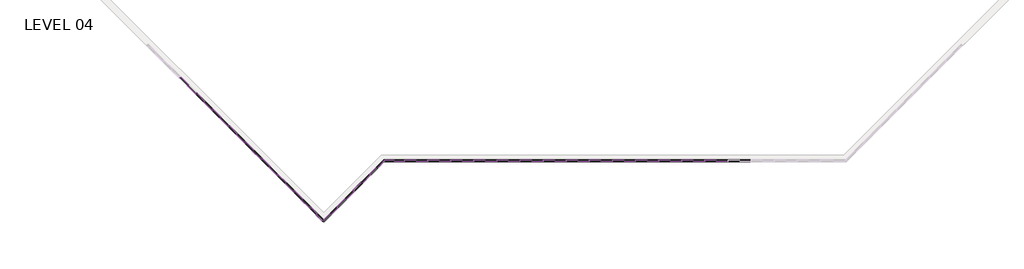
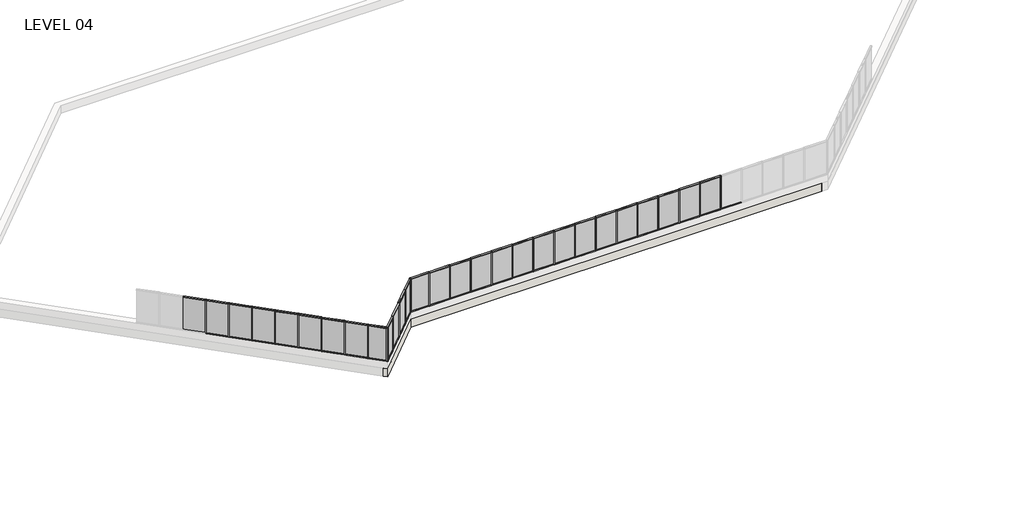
# One storey, part 1 of 17: 86 members, 28 plates, 2 walls.
"""IFC4 building model written with IfcOpenShell, lengths in millimetres."""

from ifc_helpers import new_model, si_unit, origin, place, context, project, spatial, faceted_brep, transform, mapped, element, save
from components import member_5247f267, member_e44af9ab, member_800970d4, member_c23f844a, member_45eb7f2e, member_ed9c17d6, member_53409b32, member_43bac76b, member_0b71a88d, plate_67294edd, plate_50b9cd61, plate_9c66726c, plate_dca6a18a, plate_903242d9, plate_0d1907f3, plate_15429445

model = new_model("IFC4")

# Units and contexts
model_context = context("Model", 3, world=origin())
ifc_project = project(units=[si_unit("LENGTHUNIT", "METRE", prefix="MILLI")], contexts=[model_context])

# Site, building, storey
site = spatial("IfcSite", under=ifc_project)
building = spatial("IfcBuilding", under=site)
storey = spatial("IfcBuildingStorey", under=building, Name="LEVEL 04", Elevation=12052.3)

# Members
placement = place(None, origin())
member_shape = member_5247f267(model_context)
element("IfcMember", 1, ObjectType="Rectangular Mullion : 2\" x 4.5\" rectangular", at=placement, inside=storey, context=model_context, shape_type="MappedRepresentation", body=[
    mapped(member_shape, transform((19945.35, -5092.0171279, 12052.3), x_axis=(0.0, 0.0, -1.0), y_axis=(0.0, -1.0, 0.0), z_axis=(-1.0, 0.0, 0.0))),
])
element("IfcMember", 2, ObjectType="Rectangular Mullion : 2\" x 4.5\" rectangular", at=placement, inside=storey, context=model_context, shape_type="MappedRepresentation", body=[
    mapped(member_shape, transform((21469.35, -5092.0171279, 12052.3), x_axis=(0.0, 0.0, -1.0), y_axis=(0.0, -1.0, 0.0), z_axis=(-1.0, 0.0, 0.0))),
])
element("IfcMember", 3, ObjectType="Rectangular Mullion : 2\" x 4.5\" rectangular", at=placement, inside=storey, context=model_context, shape_type="MappedRepresentation", body=[
    mapped(member_shape, transform((22993.35, -5092.0171279, 12052.3), x_axis=(0.0, 0.0, -1.0), y_axis=(0.0, -1.0, 0.0), z_axis=(-1.0, 0.0, 0.0))),
])
element("IfcMember", 4, ObjectType="Rectangular Mullion : 2\" x 4.5\" rectangular", at=placement, inside=storey, context=model_context, shape_type="MappedRepresentation", body=[
    mapped(member_shape, transform((29089.35, -5092.0171279, 12052.3), x_axis=(0.0, 0.0, -1.0), y_axis=(0.0, -1.0, 0.0), z_axis=(-1.0, 0.0, 0.0))),
])
element("IfcMember", 5, ObjectType="Rectangular Mullion : 2\" x 4.5\" rectangular", at=placement, inside=storey, context=model_context, shape_type="MappedRepresentation", body=[
    mapped(member_shape, transform((30613.35, -5092.0171279, 12052.3), x_axis=(0.0, 0.0, -1.0), y_axis=(0.0, -1.0, 0.0), z_axis=(-1.0, 0.0, 0.0))),
])
element("IfcMember", 6, ObjectType="Rectangular Mullion : 2\" x 4.5\" rectangular", at=placement, inside=storey, context=model_context, shape_type="MappedRepresentation", body=[
    mapped(member_shape, transform((32137.35, -5092.0171279, 12052.3), x_axis=(0.0, 0.0, -1.0), y_axis=(0.0, -1.0, 0.0), z_axis=(-1.0, 0.0, 0.0))),
])
element("IfcMember", 7, ObjectType="Rectangular Mullion : 2\" x 4.5\" rectangular", at=placement, inside=storey, context=model_context, shape_type="MappedRepresentation", body=[
    mapped(member_shape, transform((35185.35, -5092.0171279, 12052.3), x_axis=(0.0, 0.0, -1.0), y_axis=(0.0, -1.0, 0.0), z_axis=(-1.0, 0.0, 0.0))),
])
element("IfcMember", 8, ObjectType="Rectangular Mullion : 2\" x 4.5\" rectangular", at=placement, inside=storey, context=model_context, shape_type="MappedRepresentation", body=[
    mapped(member_shape, transform((36709.35, -5092.0171279, 12052.3), x_axis=(0.0, 0.0, -1.0), y_axis=(0.0, -1.0, 0.0), z_axis=(-1.0, 0.0, 0.0))),
])
element("IfcMember", 9, ObjectType="Rectangular Mullion : 2\" x 4.5\" rectangular", at=placement, inside=storey, context=model_context, shape_type="MappedRepresentation", body=[
    mapped(member_shape, transform((39757.35, -5092.0171279, 12052.3), x_axis=(0.0, 0.0, -1.0), y_axis=(0.0, -1.0, 0.0), z_axis=(-1.0, 0.0, 0.0))),
])
element("IfcMember", 10, ObjectType="Rectangular Mullion : 2\" x 4.5\" rectangular", at=placement, inside=storey, context=model_context, shape_type="MappedRepresentation", body=[
    mapped(member_shape, transform((24517.35, -5092.0171279, 12052.3), x_axis=(0.0, 0.0, -1.0), y_axis=(0.0, -1.0, 0.0), z_axis=(-1.0, 0.0, 0.0))),
])
element("IfcMember", 11, ObjectType="Rectangular Mullion : 2\" x 4.5\" rectangular", at=placement, inside=storey, context=model_context, shape_type="MappedRepresentation", body=[
    mapped(member_shape, transform((27565.35, -5092.0171279, 12052.3), x_axis=(0.0, 0.0, -1.0), y_axis=(0.0, -1.0, 0.0), z_axis=(-1.0, 0.0, 0.0))),
])
element("IfcMember", 12, ObjectType="Rectangular Mullion : 2\" x 4.5\" rectangular", at=placement, inside=storey, context=model_context, shape_type="MappedRepresentation", body=[
    mapped(member_shape, transform((26041.35, -5092.0171279, 12052.3), x_axis=(0.0, 0.0, -1.0), y_axis=(0.0, -1.0, 0.0), z_axis=(-1.0, 0.0, 0.0))),
])
element("IfcMember", 13, ObjectType="Rectangular Mullion : 2\" x 4.5\" rectangular", at=placement, inside=storey, context=model_context, shape_type="MappedRepresentation", body=[
    mapped(member_shape, transform((38233.35, -5092.0171279, 12052.3), x_axis=(0.0, 0.0, -1.0), y_axis=(0.0, -1.0, 0.0), z_axis=(-1.0, 0.0, 0.0))),
])
element("IfcMember", 14, ObjectType="Rectangular Mullion : 2\" x 4.5\" rectangular", at=placement, inside=storey, context=model_context, shape_type="MappedRepresentation", body=[
    mapped(member_shape, transform((33661.35, -5092.0171279, 12052.3), x_axis=(0.0, 0.0, -1.0), y_axis=(0.0, -1.0, 0.0), z_axis=(-1.0, 0.0, 0.0))),
])
element("IfcMember", 15, ObjectType="Rectangular Mullion : 2\" x 4.5\" rectangular", at=placement, inside=storey, context=model_context, shape_type="MappedRepresentation", body=[
    mapped(member_shape, transform((41281.35, -5092.0171279, 12052.3), x_axis=(0.0, 0.0, -1.0), y_axis=(0.0, -1.0, 0.0), z_axis=(-1.0, 0.0, 0.0))),
])
element("IfcMember", 16, ObjectType="Rectangular Mullion : 2\" x 4.5\" rectangular", at=placement, inside=storey, context=model_context, shape_type="MappedRepresentation", body=[
    mapped(member_shape, transform((9409.6310836, -3891.4043471, 12052.3), x_axis=(0.0, 0.0, -1.0), y_axis=(-0.707106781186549, -0.7071067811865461, 0.0), z_axis=(-0.7071067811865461, 0.707106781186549, 0.0))),
])
element("IfcMember", 17, ObjectType="Rectangular Mullion : 2\" x 4.5\" rectangular", at=placement, inside=storey, context=model_context, shape_type="MappedRepresentation", body=[
    mapped(member_shape, transform((10487.2618181, -4969.0350816, 12052.3), x_axis=(0.0, 0.0, -1.0), y_axis=(-0.707106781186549, -0.7071067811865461, 0.0), z_axis=(-0.7071067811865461, 0.707106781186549, 0.0))),
])
element("IfcMember", 18, ObjectType="Rectangular Mullion : 2\" x 4.5\" rectangular", at=placement, inside=storey, context=model_context, shape_type="MappedRepresentation", body=[
    mapped(member_shape, transform((11564.8925527, -6046.6658162, 12052.3), x_axis=(0.0, 0.0, -1.0), y_axis=(-0.707106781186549, -0.7071067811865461, 0.0), z_axis=(-0.7071067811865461, 0.707106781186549, 0.0))),
])
element("IfcMember", 19, ObjectType="Rectangular Mullion : 2\" x 4.5\" rectangular", at=placement, inside=storey, context=model_context, shape_type="MappedRepresentation", body=[
    mapped(member_shape, transform((12642.5232872, -7124.2965507, 12052.3), x_axis=(0.0, 0.0, -1.0), y_axis=(-0.7071067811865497, -0.7071067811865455, 0.0), z_axis=(-0.7071067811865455, 0.7071067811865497, 0.0))),
])
element("IfcMember", 20, ObjectType="Rectangular Mullion : 2\" x 4.5\" rectangular", at=placement, inside=storey, context=model_context, shape_type="MappedRepresentation", body=[
    mapped(member_shape, transform((16592.327111, -7061.3461525, 12052.3), x_axis=(0.0, 0.0, -1.0), y_axis=(0.7071067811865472, -0.7071067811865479, 0.0), z_axis=(-0.7071067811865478, -0.7071067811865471, 0.0))),
])
element("IfcMember", 21, ObjectType="Rectangular Mullion : 2\" x 4.5\" rectangular", at=placement, inside=storey, context=model_context, shape_type="MappedRepresentation", body=[
    mapped(member_shape, transform((15514.6963765, -8138.976887, 12052.3), x_axis=(0.0, 0.0, -1.0), y_axis=(0.7071067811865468, -0.7071067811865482, 0.0), z_axis=(-0.7071067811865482, -0.7071067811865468, 0.0))),
])
element("IfcMember", 22, ObjectType="Rectangular Mullion : 2\" x 4.5\" rectangular", at=placement, inside=storey, context=model_context, shape_type="MappedRepresentation", body=[
    mapped(member_shape, transform((21418.55, -5092.0171279, 14643.1), x_axis=(0.0, 0.0, 1.0), y_axis=(0.0, -1.0, 0.0), z_axis=(1.0, 0.0, 0.0))),
])
element("IfcMember", 23, ObjectType="Rectangular Mullion : 2\" x 4.5\" rectangular", at=placement, inside=storey, context=model_context, shape_type="MappedRepresentation", body=[
    mapped(member_shape, transform((22942.55, -5092.0171279, 14643.1), x_axis=(0.0, 0.0, 1.0), y_axis=(0.0, -1.0, 0.0), z_axis=(1.0, 0.0, 0.0))),
])
element("IfcMember", 24, ObjectType="Rectangular Mullion : 2\" x 4.5\" rectangular", at=placement, inside=storey, context=model_context, shape_type="MappedRepresentation", body=[
    mapped(member_shape, transform((29038.55, -5092.0171279, 14643.1), x_axis=(0.0, 0.0, 1.0), y_axis=(0.0, -1.0, 0.0), z_axis=(1.0, 0.0, 0.0))),
])
element("IfcMember", 25, ObjectType="Rectangular Mullion : 2\" x 4.5\" rectangular", at=placement, inside=storey, context=model_context, shape_type="MappedRepresentation", body=[
    mapped(member_shape, transform((30562.55, -5092.0171279, 14643.1), x_axis=(0.0, 0.0, 1.0), y_axis=(0.0, -1.0, 0.0), z_axis=(1.0, 0.0, 0.0))),
])
element("IfcMember", 26, ObjectType="Rectangular Mullion : 2\" x 4.5\" rectangular", at=placement, inside=storey, context=model_context, shape_type="MappedRepresentation", body=[
    mapped(member_shape, transform((32086.55, -5092.0171279, 14643.1), x_axis=(0.0, 0.0, 1.0), y_axis=(0.0, -1.0, 0.0), z_axis=(1.0, 0.0, 0.0))),
])
element("IfcMember", 27, ObjectType="Rectangular Mullion : 2\" x 4.5\" rectangular", at=placement, inside=storey, context=model_context, shape_type="MappedRepresentation", body=[
    mapped(member_shape, transform((35134.55, -5092.0171279, 14643.1), x_axis=(0.0, 0.0, 1.0), y_axis=(0.0, -1.0, 0.0), z_axis=(1.0, 0.0, 0.0))),
])
element("IfcMember", 28, ObjectType="Rectangular Mullion : 2\" x 4.5\" rectangular", at=placement, inside=storey, context=model_context, shape_type="MappedRepresentation", body=[
    mapped(member_shape, transform((36658.55, -5092.0171279, 14643.1), x_axis=(0.0, 0.0, 1.0), y_axis=(0.0, -1.0, 0.0), z_axis=(1.0, 0.0, 0.0))),
])
element("IfcMember", 29, ObjectType="Rectangular Mullion : 2\" x 4.5\" rectangular", at=placement, inside=storey, context=model_context, shape_type="MappedRepresentation", body=[
    mapped(member_shape, transform((39706.55, -5092.0171279, 14643.1), x_axis=(0.0, 0.0, 1.0), y_axis=(0.0, -1.0, 0.0), z_axis=(1.0, 0.0, 0.0))),
])
element("IfcMember", 30, ObjectType="Rectangular Mullion : 2\" x 4.5\" rectangular", at=placement, inside=storey, context=model_context, shape_type="MappedRepresentation", body=[
    mapped(member_shape, transform((24466.55, -5092.0171279, 14643.1), x_axis=(0.0, 0.0, 1.0), y_axis=(0.0, -1.0, 0.0), z_axis=(1.0, 0.0, 0.0))),
])
element("IfcMember", 31, ObjectType="Rectangular Mullion : 2\" x 4.5\" rectangular", at=placement, inside=storey, context=model_context, shape_type="MappedRepresentation", body=[
    mapped(member_shape, transform((27514.55, -5092.0171279, 14643.1), x_axis=(0.0, 0.0, 1.0), y_axis=(0.0, -1.0, 0.0), z_axis=(1.0, 0.0, 0.0))),
])
element("IfcMember", 32, ObjectType="Rectangular Mullion : 2\" x 4.5\" rectangular", at=placement, inside=storey, context=model_context, shape_type="MappedRepresentation", body=[
    mapped(member_shape, transform((25990.55, -5092.0171279, 14643.1), x_axis=(0.0, 0.0, 1.0), y_axis=(0.0, -1.0, 0.0), z_axis=(1.0, 0.0, 0.0))),
])
element("IfcMember", 33, ObjectType="Rectangular Mullion : 2\" x 4.5\" rectangular", at=placement, inside=storey, context=model_context, shape_type="MappedRepresentation", body=[
    mapped(member_shape, transform((38182.55, -5092.0171279, 14643.1), x_axis=(0.0, 0.0, 1.0), y_axis=(0.0, -1.0, 0.0), z_axis=(1.0, 0.0, 0.0))),
])
element("IfcMember", 34, ObjectType="Rectangular Mullion : 2\" x 4.5\" rectangular", at=placement, inside=storey, context=model_context, shape_type="MappedRepresentation", body=[
    mapped(member_shape, transform((33610.55, -5092.0171279, 14643.1), x_axis=(0.0, 0.0, 1.0), y_axis=(0.0, -1.0, 0.0), z_axis=(1.0, 0.0, 0.0))),
])
element("IfcMember", 35, ObjectType="Rectangular Mullion : 2\" x 4.5\" rectangular", at=placement, inside=storey, context=model_context, shape_type="MappedRepresentation", body=[
    mapped(member_shape, transform((41230.55, -5092.0171279, 14643.1), x_axis=(0.0, 0.0, 1.0), y_axis=(0.0, -1.0, 0.0), z_axis=(1.0, 0.0, 0.0))),
])
element("IfcMember", 36, ObjectType="Rectangular Mullion : 2\" x 4.5\" rectangular", at=placement, inside=storey, context=model_context, shape_type="MappedRepresentation", body=[
    mapped(member_shape, transform((10451.3407936, -4933.1140572, 14643.1), x_axis=(0.0, 0.0, 1.0), y_axis=(-0.707106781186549, -0.7071067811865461, 0.0), z_axis=(0.7071067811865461, -0.707106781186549, 0.0))),
])
element("IfcMember", 37, ObjectType="Rectangular Mullion : 2\" x 4.5\" rectangular", at=placement, inside=storey, context=model_context, shape_type="MappedRepresentation", body=[
    mapped(member_shape, transform((11528.9715282, -6010.7447917, 14643.1), x_axis=(0.0, 0.0, 1.0), y_axis=(-0.707106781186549, -0.7071067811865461, 0.0), z_axis=(0.7071067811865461, -0.707106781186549, 0.0))),
])
element("IfcMember", 38, ObjectType="Rectangular Mullion : 2\" x 4.5\" rectangular", at=placement, inside=storey, context=model_context, shape_type="MappedRepresentation", body=[
    mapped(member_shape, transform((12606.6022627, -7088.3755262, 14643.1), x_axis=(0.0, 0.0, 1.0), y_axis=(-0.707106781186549, -0.7071067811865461, 0.0), z_axis=(0.7071067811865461, -0.707106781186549, 0.0))),
])
element("IfcMember", 39, ObjectType="Rectangular Mullion : 2\" x 4.5\" rectangular", at=placement, inside=storey, context=model_context, shape_type="MappedRepresentation", body=[
    mapped(member_shape, transform((13684.2329972, -8166.0062607, 14643.1), x_axis=(0.0, 0.0, 1.0), y_axis=(-0.7071067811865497, -0.7071067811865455, 0.0), z_axis=(0.7071067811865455, -0.7071067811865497, 0.0))),
])
element("IfcMember", 40, ObjectType="Rectangular Mullion : 2\" x 4.5\" rectangular", at=placement, inside=storey, context=model_context, shape_type="MappedRepresentation", body=[
    mapped(member_shape, transform((16556.4060865, -7097.267177, 14643.1), x_axis=(0.0, 0.0, 1.0), y_axis=(0.7071067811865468, -0.7071067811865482, 0.0), z_axis=(0.7071067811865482, 0.7071067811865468, 0.0))),
])
element("IfcMember", 41, ObjectType="Rectangular Mullion : 2\" x 4.5\" rectangular", at=placement, inside=storey, context=model_context, shape_type="MappedRepresentation", body=[
    mapped(member_shape, transform((17634.036821, -6019.6364425, 14643.1), x_axis=(0.0, 0.0, 1.0), y_axis=(0.7071067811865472, -0.7071067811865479, 0.0), z_axis=(0.7071067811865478, 0.7071067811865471, 0.0))),
])
member_2_shape = member_e44af9ab(model_context)
element("IfcMember", 42, ObjectType="Rectangular Mullion : 2\" x 4.5\" rectangular", at=placement, inside=storey, context=model_context, shape_type="MappedRepresentation", body=[
    mapped(member_2_shape, transform((19919.95, -5092.0171279, 12052.3), x_axis=(1.0, 0.0, 0.0), y_axis=(0.0, -1.0, 0.0), z_axis=(0.0, 0.0, -1.0))),
])
element("IfcMember", 43, ObjectType="Rectangular Mullion : 2\" x 4.5\" rectangular", at=placement, inside=storey, context=model_context, shape_type="MappedRepresentation", body=[
    mapped(member_2_shape, transform((21443.95, -5092.0171279, 12052.3), x_axis=(1.0, 0.0, 0.0), y_axis=(0.0, -1.0, 0.0), z_axis=(0.0, 0.0, -1.0))),
])
element("IfcMember", 44, ObjectType="Rectangular Mullion : 2\" x 4.5\" rectangular", at=placement, inside=storey, context=model_context, shape_type="MappedRepresentation", body=[
    mapped(member_2_shape, transform((22967.95, -5092.0171279, 12052.3), x_axis=(1.0, 0.0, 0.0), y_axis=(0.0, -1.0, 0.0), z_axis=(0.0, 0.0, -1.0))),
])
element("IfcMember", 45, ObjectType="Rectangular Mullion : 2\" x 4.5\" rectangular", at=placement, inside=storey, context=model_context, shape_type="MappedRepresentation", body=[
    mapped(member_2_shape, transform((29063.95, -5092.0171279, 12052.3), x_axis=(1.0, 0.0, 0.0), y_axis=(0.0, -1.0, 0.0), z_axis=(0.0, 0.0, -1.0))),
])
element("IfcMember", 46, ObjectType="Rectangular Mullion : 2\" x 4.5\" rectangular", at=placement, inside=storey, context=model_context, shape_type="MappedRepresentation", body=[
    mapped(member_2_shape, transform((30587.95, -5092.0171279, 12052.3), x_axis=(1.0, 0.0, 0.0), y_axis=(0.0, -1.0, 0.0), z_axis=(0.0, 0.0, -1.0))),
])
element("IfcMember", 47, ObjectType="Rectangular Mullion : 2\" x 4.5\" rectangular", at=placement, inside=storey, context=model_context, shape_type="MappedRepresentation", body=[
    mapped(member_2_shape, transform((32111.95, -5092.0171279, 12052.3), x_axis=(1.0, 0.0, 0.0), y_axis=(0.0, -1.0, 0.0), z_axis=(0.0, 0.0, -1.0))),
])
element("IfcMember", 48, ObjectType="Rectangular Mullion : 2\" x 4.5\" rectangular", at=placement, inside=storey, context=model_context, shape_type="MappedRepresentation", body=[
    mapped(member_2_shape, transform((35159.95, -5092.0171279, 12052.3), x_axis=(1.0, 0.0, 0.0), y_axis=(0.0, -1.0, 0.0), z_axis=(0.0, 0.0, -1.0))),
])
element("IfcMember", 49, ObjectType="Rectangular Mullion : 2\" x 4.5\" rectangular", at=placement, inside=storey, context=model_context, shape_type="MappedRepresentation", body=[
    mapped(member_2_shape, transform((36683.95, -5092.0171279, 12052.3), x_axis=(1.0, 0.0, 0.0), y_axis=(0.0, -1.0, 0.0), z_axis=(0.0, 0.0, -1.0))),
])
element("IfcMember", 50, ObjectType="Rectangular Mullion : 2\" x 4.5\" rectangular", at=placement, inside=storey, context=model_context, shape_type="MappedRepresentation", body=[
    mapped(member_2_shape, transform((39731.95, -5092.0171279, 12052.3), x_axis=(1.0, 0.0, 0.0), y_axis=(0.0, -1.0, 0.0), z_axis=(0.0, 0.0, -1.0))),
])
element("IfcMember", 51, ObjectType="Rectangular Mullion : 2\" x 4.5\" rectangular", at=placement, inside=storey, context=model_context, shape_type="MappedRepresentation", body=[
    mapped(member_2_shape, transform((24491.95, -5092.0171279, 12052.3), x_axis=(1.0, 0.0, 0.0), y_axis=(0.0, -1.0, 0.0), z_axis=(0.0, 0.0, -1.0))),
])
element("IfcMember", 52, ObjectType="Rectangular Mullion : 2\" x 4.5\" rectangular", at=placement, inside=storey, context=model_context, shape_type="MappedRepresentation", body=[
    mapped(member_2_shape, transform((27539.95, -5092.0171279, 12052.3), x_axis=(1.0, 0.0, 0.0), y_axis=(0.0, -1.0, 0.0), z_axis=(0.0, 0.0, -1.0))),
])
element("IfcMember", 53, ObjectType="Rectangular Mullion : 2\" x 4.5\" rectangular", at=placement, inside=storey, context=model_context, shape_type="MappedRepresentation", body=[
    mapped(member_2_shape, transform((26015.95, -5092.0171279, 12052.3), x_axis=(1.0, 0.0, 0.0), y_axis=(0.0, -1.0, 0.0), z_axis=(0.0, 0.0, -1.0))),
])
element("IfcMember", 54, ObjectType="Rectangular Mullion : 2\" x 4.5\" rectangular", at=placement, inside=storey, context=model_context, shape_type="MappedRepresentation", body=[
    mapped(member_2_shape, transform((38207.95, -5092.0171279, 12052.3), x_axis=(1.0, 0.0, 0.0), y_axis=(0.0, -1.0, 0.0), z_axis=(0.0, 0.0, -1.0))),
])
element("IfcMember", 55, ObjectType="Rectangular Mullion : 2\" x 4.5\" rectangular", at=placement, inside=storey, context=model_context, shape_type="MappedRepresentation", body=[
    mapped(member_2_shape, transform((33635.95, -5092.0171279, 12052.3), x_axis=(1.0, 0.0, 0.0), y_axis=(0.0, -1.0, 0.0), z_axis=(0.0, 0.0, -1.0))),
])
element("IfcMember", 56, ObjectType="Rectangular Mullion : 2\" x 4.5\" rectangular", at=placement, inside=storey, context=model_context, shape_type="MappedRepresentation", body=[
    mapped(member_2_shape, transform((41255.95, -5092.0171279, 12052.3), x_axis=(1.0, 0.0, 0.0), y_axis=(0.0, -1.0, 0.0), z_axis=(0.0, 0.0, -1.0))),
])
element("IfcMember", 57, ObjectType="Rectangular Mullion : 2\" x 4.5\" rectangular", at=placement, inside=storey, context=model_context, shape_type="MappedRepresentation", body=[
    mapped(member_2_shape, transform((6176.740342, -658.5136055, 12052.3), x_axis=(0.7071067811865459, -0.7071067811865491, 0.0), y_axis=(-0.7071067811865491, -0.7071067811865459, 0.0), z_axis=(0.0, 0.0, -1.0))),
])
element("IfcMember", 58, ObjectType="Rectangular Mullion : 2\" x 4.5\" rectangular", at=placement, inside=storey, context=model_context, shape_type="MappedRepresentation", body=[
    mapped(member_2_shape, transform((7248.3837518, -1730.1570153, 12052.3), x_axis=(0.7071067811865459, -0.7071067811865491, 0.0), y_axis=(-0.7071067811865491, -0.7071067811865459, 0.0), z_axis=(0.0, 0.0, -1.0))),
])
element("IfcMember", 59, ObjectType="Rectangular Mullion : 2\" x 4.5\" rectangular", at=placement, inside=storey, context=model_context, shape_type="MappedRepresentation", body=[
    mapped(member_2_shape, transform((8320.0271616, -2801.8004251, 12052.3), x_axis=(0.7071067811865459, -0.7071067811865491, 0.0), y_axis=(-0.7071067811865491, -0.7071067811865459, 0.0), z_axis=(0.0, 0.0, -1.0))),
])
element("IfcMember", 60, ObjectType="Rectangular Mullion : 2\" x 4.5\" rectangular", at=placement, inside=storey, context=model_context, shape_type="MappedRepresentation", body=[
    mapped(member_2_shape, transform((9391.6705714, -3873.4438349, 12052.3), x_axis=(0.7071067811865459, -0.7071067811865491, 0.0), y_axis=(-0.7071067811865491, -0.7071067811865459, 0.0), z_axis=(0.0, 0.0, -1.0))),
])
element("IfcMember", 61, ObjectType="Rectangular Mullion : 2\" x 4.5\" rectangular", at=placement, inside=storey, context=model_context, shape_type="MappedRepresentation", body=[
    mapped(member_2_shape, transform((10469.3013059, -4951.0745694, 12052.3), x_axis=(0.7071067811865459, -0.7071067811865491, 0.0), y_axis=(-0.7071067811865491, -0.7071067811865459, 0.0), z_axis=(0.0, 0.0, -1.0))),
])
element("IfcMember", 62, ObjectType="Rectangular Mullion : 2\" x 4.5\" rectangular", at=placement, inside=storey, context=model_context, shape_type="MappedRepresentation", body=[
    mapped(member_2_shape, transform((11546.9320404, -6028.7053039, 12052.3), x_axis=(0.7071067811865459, -0.7071067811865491, 0.0), y_axis=(-0.7071067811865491, -0.7071067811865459, 0.0), z_axis=(0.0, 0.0, -1.0))),
])
element("IfcMember", 63, ObjectType="Rectangular Mullion : 2\" x 4.5\" rectangular", at=placement, inside=storey, context=model_context, shape_type="MappedRepresentation", body=[
    mapped(member_2_shape, transform((12624.5627749, -7106.3360385, 12052.3), x_axis=(0.7071067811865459, -0.7071067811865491, 0.0), y_axis=(-0.7071067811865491, -0.7071067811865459, 0.0), z_axis=(0.0, 0.0, -1.0))),
])
element("IfcMember", 64, ObjectType="Rectangular Mullion : 2\" x 4.5\" rectangular", at=placement, inside=storey, context=model_context, shape_type="MappedRepresentation", body=[
    mapped(member_2_shape, transform((13702.1935095, -8183.966773, 12052.3), x_axis=(0.7071067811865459, -0.7071067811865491, 0.0), y_axis=(-0.7071067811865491, -0.7071067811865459, 0.0), z_axis=(0.0, 0.0, -1.0))),
])
element("IfcMember", 65, ObjectType="Rectangular Mullion : 2\" x 4.5\" rectangular", at=placement, inside=storey, context=model_context, shape_type="MappedRepresentation", body=[
    mapped(member_2_shape, transform((16574.3665988, -7079.3066648, 12052.3), x_axis=(0.707106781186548, 0.707106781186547, 0.0), y_axis=(0.707106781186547, -0.707106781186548, 0.0), z_axis=(0.0, 0.0, -1.0))),
])
element("IfcMember", 66, ObjectType="Rectangular Mullion : 2\" x 4.5\" rectangular", at=placement, inside=storey, context=model_context, shape_type="MappedRepresentation", body=[
    mapped(member_2_shape, transform((17651.9973333, -6001.6759302, 12052.3), x_axis=(0.707106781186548, 0.707106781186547, 0.0), y_axis=(0.707106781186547, -0.707106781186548, 0.0), z_axis=(0.0, 0.0, -1.0))),
])
element("IfcMember", 67, ObjectType="Rectangular Mullion : 2\" x 4.5\" rectangular", at=placement, inside=storey, context=model_context, shape_type="MappedRepresentation", body=[
    mapped(member_2_shape, transform((15496.7358642, -8156.9373993, 12052.3), x_axis=(0.707106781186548, 0.707106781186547, 0.0), y_axis=(0.707106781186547, -0.707106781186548, 0.0), z_axis=(0.0, 0.0, -1.0))),
])
member_3_shape = member_800970d4(model_context)
element("IfcMember", 68, ObjectType="Rectangular Mullion : 2\" x 4.5\" rectangular", at=placement, inside=storey, context=model_context, shape_type="MappedRepresentation", body=[
    mapped(member_3_shape, transform((14585.95, -9067.7232635, 12052.3), x_axis=(0.7071067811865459, -0.7071067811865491, 0.0), y_axis=(-0.7071067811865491, -0.7071067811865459, 0.0), z_axis=(0.0, 0.0, -1.0))),
])
element("IfcMember", 69, ObjectType="Rectangular Mullion : 2\" x 4.5\" rectangular", at=placement, inside=storey, context=model_context, shape_type="MappedRepresentation", body=[
    mapped(member_3_shape, transform((18561.6561356, -5092.0171279, 12052.3), x_axis=(0.707106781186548, 0.707106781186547, 0.0), y_axis=(0.707106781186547, -0.707106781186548, 0.0), z_axis=(0.0, 0.0, -1.0))),
])
element("IfcMember", 70, ObjectType="Rectangular Mullion : 2\" x 4.5\" rectangular", at=placement, inside=storey, context=model_context, shape_type="MappedRepresentation", body=[
    mapped(member_3_shape, transform((18561.6561356, -5092.0171279, 14643.1), x_axis=(-1.0, 0.0, 0.0), y_axis=(0.0, -1.0, 0.0), z_axis=(0.0, 0.0, 1.0))),
])
element("IfcMember", 71, ObjectType="Rectangular Mullion : 2\" x 4.5\" rectangular", at=placement, inside=storey, context=model_context, shape_type="MappedRepresentation", body=[
    mapped(member_3_shape, transform((14585.95, -9067.7232635, 14643.1), x_axis=(-0.707106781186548, -0.707106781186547, 0.0), y_axis=(0.707106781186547, -0.707106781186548, 0.0), z_axis=(0.0, 0.0, 1.0))),
])
member_4_shape = member_c23f844a(model_context)
element("IfcMember", 72, ObjectType="Rectangular Mullion : 2\" x 4.5\" rectangular", at=placement, inside=storey, context=model_context, shape_type="MappedRepresentation", body=[
    mapped(member_4_shape, transform((7230.4232395, -1712.196503, 14643.1), x_axis=(0.0, 0.0, 1.0), y_axis=(-0.707106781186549, -0.7071067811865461, 0.0), z_axis=(0.7071067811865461, -0.707106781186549, 0.0))),
])
element("IfcMember", 73, ObjectType="Rectangular Mullion : 2\" x 4.5\" rectangular", at=placement, inside=storey, context=model_context, shape_type="MappedRepresentation", body=[
    mapped(member_4_shape, transform((8302.0666493, -2783.8399128, 14643.1), x_axis=(0.0, 0.0, 1.0), y_axis=(-0.7071067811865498, -0.7071067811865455, 0.0), z_axis=(0.7071067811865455, -0.7071067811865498, 0.0))),
])
element("IfcMember", 74, ObjectType="Rectangular Mullion : 2\" x 4.5\" rectangular", at=placement, inside=storey, context=model_context, shape_type="MappedRepresentation", body=[
    mapped(member_4_shape, transform((9373.7100591, -3855.4833226, 14643.1), x_axis=(0.0, 0.0, 1.0), y_axis=(-0.707106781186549, -0.7071067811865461, 0.0), z_axis=(0.707106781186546, -0.7071067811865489, 0.0))),
])
element("IfcMember", 75, ObjectType="Rectangular Mullion : 2\" x 4.5\" rectangular", at=placement, inside=storey, context=model_context, shape_type="MappedRepresentation", body=[
    mapped(member_4_shape, transform((6194.7008542, -676.4741177, 12052.3), x_axis=(0.0, 0.0, -1.0), y_axis=(-0.7071067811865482, -0.7071067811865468, 0.0), z_axis=(-0.7071067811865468, 0.7071067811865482, 0.0))),
])
element("IfcMember", 76, ObjectType="Rectangular Mullion : 2\" x 4.5\" rectangular", at=placement, inside=storey, context=model_context, shape_type="MappedRepresentation", body=[
    mapped(member_4_shape, transform((7266.344264, -1748.1175275, 12052.3), x_axis=(0.0, 0.0, -1.0), y_axis=(-0.7071067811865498, -0.7071067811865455, 0.0), z_axis=(-0.7071067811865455, 0.7071067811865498, 0.0))),
])
element("IfcMember", 77, ObjectType="Rectangular Mullion : 2\" x 4.5\" rectangular", at=placement, inside=storey, context=model_context, shape_type="MappedRepresentation", body=[
    mapped(member_4_shape, transform((8337.9876738, -2819.7609373, 12052.3), x_axis=(0.0, 0.0, -1.0), y_axis=(-0.707106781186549, -0.7071067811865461, 0.0), z_axis=(-0.707106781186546, 0.7071067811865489, 0.0))),
])
member_5_shape = member_45eb7f2e(model_context)
element("IfcMember", 78, ObjectType="Rectangular Mullion : 2\" x 4.5\" rectangular", at=placement, inside=storey, context=model_context, shape_type="MappedRepresentation", body=[
    mapped(member_5_shape, transform((19894.55, -5092.0171279, 14643.1), x_axis=(0.0, 0.0, 1.0), y_axis=(0.0, -1.0, 0.0), z_axis=(1.0, 0.0, 0.0))),
])
element("IfcMember", 79, ObjectType="Rectangular Mullion : 2\" x 4.5\" rectangular", at=placement, inside=storey, context=model_context, shape_type="MappedRepresentation", body=[
    mapped(member_5_shape, transform((18612.4561356, -5092.0171279, 12052.3), x_axis=(0.0, 0.0, -1.0), y_axis=(0.0, -1.0, 0.0), z_axis=(-1.0, 0.0, 0.0))),
])
member_6_shape = member_ed9c17d6(model_context)
element("IfcMember", 80, ObjectType="Rectangular Mullion : 2\" x 4.5\" rectangular", at=placement, inside=storey, context=model_context, shape_type="MappedRepresentation", body=[
    mapped(member_6_shape, transform((6158.7798297, -640.5530932, 14643.1), x_axis=(0.0, 0.0, 1.0), y_axis=(-0.707106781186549, -0.7071067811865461, 0.0), z_axis=(0.7071067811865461, -0.707106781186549, 0.0))),
])
member_7_shape = member_53409b32(model_context)
element("IfcMember", 81, ObjectType="Rectangular Mullion : 2\" x 4.5\" rectangular", at=placement, inside=storey, context=model_context, shape_type="MappedRepresentation", body=[
    mapped(member_7_shape, transform((14550.0289755, -9031.802239, 14643.1), x_axis=(0.0, 0.0, 1.0), y_axis=(-0.7071067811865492, -0.7071067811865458, 0.0), z_axis=(0.7071067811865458, -0.7071067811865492, 0.0))),
])
element("IfcMember", 82, ObjectType="Rectangular Mullion : 2\" x 4.5\" rectangular", at=placement, inside=storey, context=model_context, shape_type="MappedRepresentation", body=[
    mapped(member_7_shape, transform((13720.1540217, -8201.9272852, 12052.3), x_axis=(0.0, 0.0, -1.0), y_axis=(-0.7071067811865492, -0.7071067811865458, 0.0), z_axis=(-0.7071067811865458, 0.7071067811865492, 0.0))),
])
member_8_shape = member_43bac76b(model_context)
element("IfcMember", 83, ObjectType="Rectangular Mullion : 2\" x 4.5\" rectangular", at=placement, inside=storey, context=model_context, shape_type="MappedRepresentation", body=[
    mapped(member_8_shape, transform((18525.7351111, -5127.9381524, 14643.1), x_axis=(0.0, 0.0, 1.0), y_axis=(0.7071067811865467, -0.7071067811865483, 0.0), z_axis=(0.7071067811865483, 0.7071067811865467, 0.0))),
])
element("IfcMember", 84, ObjectType="Rectangular Mullion : 2\" x 4.5\" rectangular", at=placement, inside=storey, context=model_context, shape_type="MappedRepresentation", body=[
    mapped(member_8_shape, transform((17669.9578455, -5983.715418, 12052.3), x_axis=(0.0, 0.0, -1.0), y_axis=(0.7071067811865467, -0.7071067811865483, 0.0), z_axis=(-0.7071067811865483, -0.7071067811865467, 0.0))),
])
member_9_shape = member_0b71a88d(model_context)
element("IfcMember", 85, ObjectType="Rectangular Mullion : 2\" x 4.5\" rectangular", at=placement, inside=storey, context=model_context, shape_type="MappedRepresentation", body=[
    mapped(member_9_shape, transform((14621.8710245, -9031.802239, 12052.3), x_axis=(0.0, 0.0, -1.0), y_axis=(0.7071067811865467, -0.7071067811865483, 0.0), z_axis=(-0.7071067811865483, -0.7071067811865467, 0.0))),
])
element("IfcMember", 86, ObjectType="Rectangular Mullion : 2\" x 4.5\" rectangular", at=placement, inside=storey, context=model_context, shape_type="MappedRepresentation", body=[
    mapped(member_9_shape, transform((15478.775352, -8174.8979115, 14643.1), x_axis=(0.0, 0.0, 1.0), y_axis=(0.7071067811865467, -0.7071067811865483, 0.0), z_axis=(0.7071067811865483, 0.7071067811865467, 0.0))),
])

# Plates
plate_shape = plate_67294edd(model_context)
element("IfcPlate", 87, ObjectType="System Panel : 1/4\" Glass", at=placement, inside=storey, context=model_context, shape_type="MappedRepresentation", body=[
    mapped(plate_shape, transform((20681.95, -5092.0171279, 12103.1), x_axis=(1.0, 0.0, 0.0), y_axis=(0.0, 1.0, 0.0), z_axis=(0.0, 0.0, 1.0))),
])
element("IfcPlate", 88, ObjectType="System Panel : 1/4\" Glass", at=placement, inside=storey, context=model_context, shape_type="MappedRepresentation", body=[
    mapped(plate_shape, transform((22205.95, -5092.0171279, 12103.1), x_axis=(1.0, 0.0, 0.0), y_axis=(0.0, 1.0, 0.0), z_axis=(0.0, 0.0, 1.0))),
])
element("IfcPlate", 89, ObjectType="System Panel : 1/4\" Glass", at=placement, inside=storey, context=model_context, shape_type="MappedRepresentation", body=[
    mapped(plate_shape, transform((23729.95, -5092.0171279, 12103.1), x_axis=(1.0, 0.0, 0.0), y_axis=(0.0, 1.0, 0.0), z_axis=(0.0, 0.0, 1.0))),
])
element("IfcPlate", 90, ObjectType="System Panel : 1/4\" Glass", at=placement, inside=storey, context=model_context, shape_type="MappedRepresentation", body=[
    mapped(plate_shape, transform((29825.95, -5092.0171279, 12103.1), x_axis=(1.0, 0.0, 0.0), y_axis=(0.0, 1.0, 0.0), z_axis=(0.0, 0.0, 1.0))),
])
element("IfcPlate", 91, ObjectType="System Panel : 1/4\" Glass", at=placement, inside=storey, context=model_context, shape_type="MappedRepresentation", body=[
    mapped(plate_shape, transform((31349.95, -5092.0171279, 12103.1), x_axis=(1.0, 0.0, 0.0), y_axis=(0.0, 1.0, 0.0), z_axis=(0.0, 0.0, 1.0))),
])
element("IfcPlate", 92, ObjectType="System Panel : 1/4\" Glass", at=placement, inside=storey, context=model_context, shape_type="MappedRepresentation", body=[
    mapped(plate_shape, transform((32873.95, -5092.0171279, 12103.1), x_axis=(1.0, 0.0, 0.0), y_axis=(0.0, 1.0, 0.0), z_axis=(0.0, 0.0, 1.0))),
])
element("IfcPlate", 93, ObjectType="System Panel : 1/4\" Glass", at=placement, inside=storey, context=model_context, shape_type="MappedRepresentation", body=[
    mapped(plate_shape, transform((35921.95, -5092.0171279, 12103.1), x_axis=(1.0, 0.0, 0.0), y_axis=(0.0, 1.0, 0.0), z_axis=(0.0, 0.0, 1.0))),
])
element("IfcPlate", 94, ObjectType="System Panel : 1/4\" Glass", at=placement, inside=storey, context=model_context, shape_type="MappedRepresentation", body=[
    mapped(plate_shape, transform((37445.95, -5092.0171279, 12103.1), x_axis=(1.0, 0.0, 0.0), y_axis=(0.0, 1.0, 0.0), z_axis=(0.0, 0.0, 1.0))),
])
element("IfcPlate", 95, ObjectType="System Panel : 1/4\" Glass", at=placement, inside=storey, context=model_context, shape_type="MappedRepresentation", body=[
    mapped(plate_shape, transform((40493.95, -5092.0171279, 12103.1), x_axis=(1.0, 0.0, 0.0), y_axis=(0.0, 1.0, 0.0), z_axis=(0.0, 0.0, 1.0))),
])
element("IfcPlate", 96, ObjectType="System Panel : 1/4\" Glass", at=placement, inside=storey, context=model_context, shape_type="MappedRepresentation", body=[
    mapped(plate_shape, transform((25253.95, -5092.0171279, 12103.1), x_axis=(1.0, 0.0, 0.0), y_axis=(0.0, 1.0, 0.0), z_axis=(0.0, 0.0, 1.0))),
])
element("IfcPlate", 97, ObjectType="System Panel : 1/4\" Glass", at=placement, inside=storey, context=model_context, shape_type="MappedRepresentation", body=[
    mapped(plate_shape, transform((28301.95, -5092.0171279, 12103.1), x_axis=(1.0, 0.0, 0.0), y_axis=(0.0, 1.0, 0.0), z_axis=(0.0, 0.0, 1.0))),
])
element("IfcPlate", 98, ObjectType="System Panel : 1/4\" Glass", at=placement, inside=storey, context=model_context, shape_type="MappedRepresentation", body=[
    mapped(plate_shape, transform((26777.95, -5092.0171279, 12103.1), x_axis=(1.0, 0.0, 0.0), y_axis=(0.0, 1.0, 0.0), z_axis=(0.0, 0.0, 1.0))),
])
element("IfcPlate", 99, ObjectType="System Panel : 1/4\" Glass", at=placement, inside=storey, context=model_context, shape_type="MappedRepresentation", body=[
    mapped(plate_shape, transform((38969.95, -5092.0171279, 12103.1), x_axis=(1.0, 0.0, 0.0), y_axis=(0.0, 1.0, 0.0), z_axis=(0.0, 0.0, 1.0))),
])
element("IfcPlate", 100, ObjectType="System Panel : 1/4\" Glass", at=placement, inside=storey, context=model_context, shape_type="MappedRepresentation", body=[
    mapped(plate_shape, transform((34397.95, -5092.0171279, 12103.1), x_axis=(1.0, 0.0, 0.0), y_axis=(0.0, 1.0, 0.0), z_axis=(0.0, 0.0, 1.0))),
])
element("IfcPlate", 101, ObjectType="System Panel : 1/4\" Glass", at=placement, inside=storey, context=model_context, shape_type="MappedRepresentation", body=[
    mapped(plate_shape, transform((9930.4859386, -4412.2592021, 12103.1), x_axis=(0.7071067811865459, -0.7071067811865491, 0.0), y_axis=(0.7071067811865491, 0.7071067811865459, 0.0), z_axis=(0.0, 0.0, 1.0))),
])
element("IfcPlate", 102, ObjectType="System Panel : 1/4\" Glass", at=placement, inside=storey, context=model_context, shape_type="MappedRepresentation", body=[
    mapped(plate_shape, transform((11008.1166732, -5489.8899367, 12103.1), x_axis=(0.7071067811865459, -0.7071067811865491, 0.0), y_axis=(0.7071067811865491, 0.7071067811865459, 0.0), z_axis=(0.0, 0.0, 1.0))),
])
element("IfcPlate", 103, ObjectType="System Panel : 1/4\" Glass", at=placement, inside=storey, context=model_context, shape_type="MappedRepresentation", body=[
    mapped(plate_shape, transform((12085.7474077, -6567.5206712, 12103.1), x_axis=(0.7071067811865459, -0.7071067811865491, 0.0), y_axis=(0.7071067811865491, 0.7071067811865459, 0.0), z_axis=(0.0, 0.0, 1.0))),
])
element("IfcPlate", 104, ObjectType="System Panel : 1/4\" Glass", at=placement, inside=storey, context=model_context, shape_type="MappedRepresentation", body=[
    mapped(plate_shape, transform((13163.3781422, -7645.1514057, 12103.1), x_axis=(0.7071067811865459, -0.7071067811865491, 0.0), y_axis=(0.7071067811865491, 0.7071067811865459, 0.0), z_axis=(0.0, 0.0, 1.0))),
])
element("IfcPlate", 105, ObjectType="System Panel : 1/4\" Glass", at=placement, inside=storey, context=model_context, shape_type="MappedRepresentation", body=[
    mapped(plate_shape, transform((17113.181966, -6540.4912975, 12103.1), x_axis=(0.707106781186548, 0.707106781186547, 0.0), y_axis=(-0.707106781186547, 0.707106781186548, 0.0), z_axis=(0.0, 0.0, 1.0))),
])
element("IfcPlate", 106, ObjectType="System Panel : 1/4\" Glass", at=placement, inside=storey, context=model_context, shape_type="MappedRepresentation", body=[
    mapped(plate_shape, transform((16035.5512315, -7618.122032, 12103.1), x_axis=(0.707106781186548, 0.707106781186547, 0.0), y_axis=(-0.707106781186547, 0.707106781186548, 0.0), z_axis=(0.0, 0.0, 1.0))),
])
plate_2_shape = plate_50b9cd61(model_context)
element("IfcPlate", 107, ObjectType="System Panel : 1/4\" Glass", at=placement, inside=storey, context=model_context, shape_type="MappedRepresentation", body=[
    mapped(plate_2_shape, transform((6712.5620469, -1194.3353104, 12103.1), x_axis=(0.7071067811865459, -0.7071067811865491, 0.0), y_axis=(0.7071067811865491, 0.7071067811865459, 0.0), z_axis=(0.0, 0.0, 1.0))),
])
element("IfcPlate", 108, ObjectType="System Panel : 1/4\" Glass", at=placement, inside=storey, context=model_context, shape_type="MappedRepresentation", body=[
    mapped(plate_2_shape, transform((7784.2054567, -2265.9787202, 12103.1), x_axis=(0.7071067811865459, -0.7071067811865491, 0.0), y_axis=(0.7071067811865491, 0.7071067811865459, 0.0), z_axis=(0.0, 0.0, 1.0))),
])
element("IfcPlate", 109, ObjectType="System Panel : 1/4\" Glass", at=placement, inside=storey, context=model_context, shape_type="MappedRepresentation", body=[
    mapped(plate_2_shape, transform((8855.8488665, -3337.62213, 12103.1), x_axis=(0.7071067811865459, -0.7071067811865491, 0.0), y_axis=(0.7071067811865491, 0.7071067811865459, 0.0), z_axis=(0.0, 0.0, 1.0))),
])
plate_3_shape = plate_9c66726c(model_context)
element("IfcPlate", 110, ObjectType="System Panel : 1/4\" Glass", at=placement, inside=storey, context=model_context, shape_type="MappedRepresentation", body=[
    mapped(plate_3_shape, transform((19253.5030678, -5092.0171279, 12103.1), x_axis=(1.0, 0.0, 0.0), y_axis=(0.0, 1.0, 0.0), z_axis=(0.0, 0.0, 1.0))),
])
plate_4_shape = plate_dca6a18a(model_context)
element("IfcPlate", 111, ObjectType="System Panel : 1/4\" Glass", at=placement, inside=storey, context=model_context, shape_type="MappedRepresentation", body=[
    mapped(plate_4_shape, transform((5639.4307395, -121.204003, 12103.1), x_axis=(0.7071067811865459, -0.7071067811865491, 0.0), y_axis=(0.7071067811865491, 0.7071067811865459, 0.0), z_axis=(0.0, 0.0, 1.0))),
])
plate_5_shape = plate_903242d9(model_context)
element("IfcPlate", 112, ObjectType="System Panel : 1/4\" Glass", at=placement, inside=storey, context=model_context, shape_type="MappedRepresentation", body=[
    mapped(plate_5_shape, transform((14135.0914986, -8616.8647621, 12103.1), x_axis=(0.7071067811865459, -0.7071067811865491, 0.0), y_axis=(0.7071067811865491, 0.7071067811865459, 0.0), z_axis=(0.0, 0.0, 1.0))),
])
plate_6_shape = plate_0d1907f3(model_context)
element("IfcPlate", 113, ObjectType="System Panel : 1/4\" Glass", at=placement, inside=storey, context=model_context, shape_type="MappedRepresentation", body=[
    mapped(plate_6_shape, transform((18097.8464783, -5555.8267852, 12103.1), x_axis=(0.707106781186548, 0.707106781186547, 0.0), y_axis=(-0.707106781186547, 0.707106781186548, 0.0), z_axis=(0.0, 0.0, 1.0))),
])
plate_7_shape = plate_15429445(model_context)
element("IfcPlate", 114, ObjectType="System Panel : 1/4\" Glass", at=placement, inside=storey, context=model_context, shape_type="MappedRepresentation", body=[
    mapped(plate_7_shape, transform((15050.3231882, -8603.3500753, 12103.1), x_axis=(0.707106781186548, 0.707106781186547, 0.0), y_axis=(-0.707106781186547, 0.707106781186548, 0.0), z_axis=(0.0, 0.0, 1.0))),
])

# Walls
element("IfcWall", 115, ObjectType="01-CONCRETE-12", at=placement, inside=storey, context=model_context, shape_type="Brep", body=[
    faceted_brep([(48939.0761469, -4844.3671279, 10871.2), (18459.0761469, -4844.3671279, 10871.2), (18459.0761469, -4844.3671279, 11493.5), (48939.0761469, -4844.3671279, 11493.5), (48634.2761469, -5149.1671279, 10871.2), (48634.2761469, -5149.1671279, 11493.5), (18585.3284407, -5149.1671279, 11493.5), (18154.2761469, -5149.1671279, 11493.5), (18154.2761469, -5149.1671279, 10871.2), (18585.3284407, -5149.1671279, 10871.2)], [[[0, 1, 2, 3]], [[4, 5, 6, 7, 8, 9]], [[1, 0, 4, 9, 8]], [[3, 2, 7, 6, 5]], [[0, 3, 5, 4]], [[2, 1, 8, 7]]]),
])
element("IfcWall", 116, ObjectType="01-CONCRETE-12", at=placement, inside=storey, context=model_context, shape_type="Brep", body=[
    faceted_brep([(18154.2761469, -5149.1671279, 10871.2), (14585.95, -8717.4932748, 10871.2), (14370.4238531, -8933.0194217, 10871.2), (14370.4238531, -8933.0194217, 11493.5), (14585.95, -8717.4932748, 11493.5), (18154.2761469, -5149.1671279, 11493.5), (18585.3284407, -5149.1671279, 10871.2), (18585.3284407, -5149.1671279, 11493.5), (14585.95, -9148.5455686, 11493.5), (14585.95, -9148.5455686, 10871.2)], [[[0, 1, 2, 3, 4, 5]], [[6, 7, 8, 9]], [[2, 1, 0, 6, 9]], [[5, 4, 3, 8, 7]], [[0, 5, 7, 6]], [[3, 2, 9, 8]]]),
])

save(model, "model.ifc")
